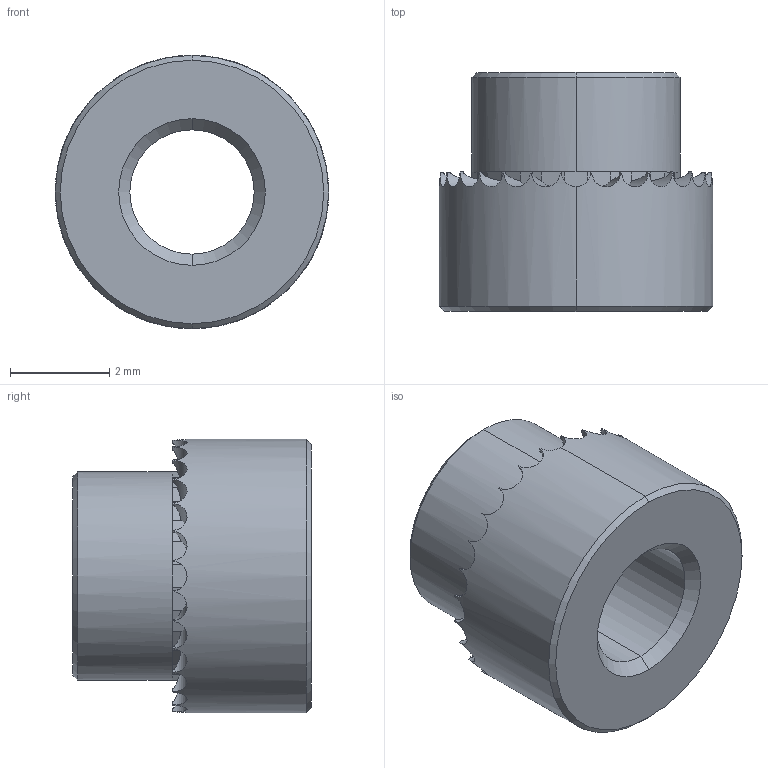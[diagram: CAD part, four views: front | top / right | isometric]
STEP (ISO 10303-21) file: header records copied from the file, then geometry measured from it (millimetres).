
FILE_DESCRIPTION (( 'STEP AP203' ), '1' );
FILE_NAME ('P0829.025-16G-ZP.step', '2019-03-21T22:11:26', ( '' ), ( '' ), 'SwSTEP 2.0', 'SolidWorks 2017', '' );
FILE_SCHEMA (( 'CONFIG_CONTROL_DESIGN' ));
Length unit declared in the file: millimetre
Products named in the file (1): P0829.025-16G-ZP
Bounding box: 5.5 x 4.8 x 5.5 mm (x, y, z)
Volume: 67.5 mm3; surface area: 148.9 mm2
Topology: 1 solids, 1 shells, 128 faces, 312 edges, 186 vertices
Faces by surface type: plane 86, cylinder 34, cone 8
Entity records: 3963 total; most frequent: CARTESIAN_POINT 965, ORIENTED_EDGE 624, DIRECTION 612, EDGE_CURVE 312, AXIS2_PLACEMENT_3D 229, VERTEX_POINT 186, LINE 154, VECTOR 154
